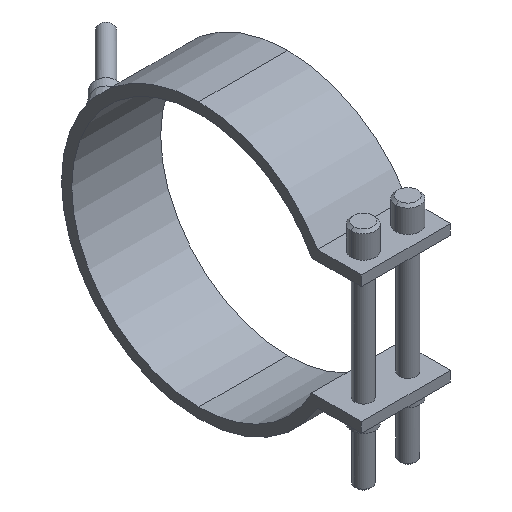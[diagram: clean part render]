
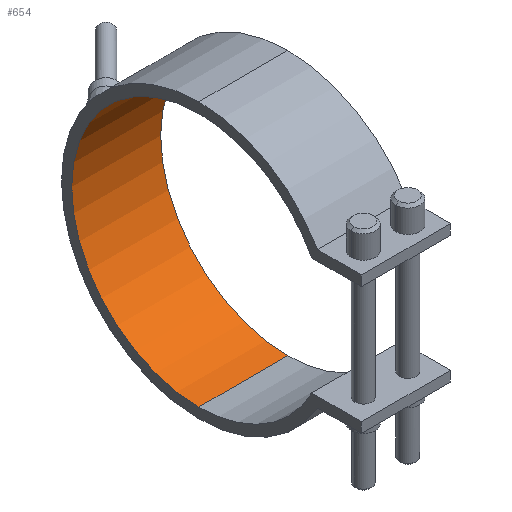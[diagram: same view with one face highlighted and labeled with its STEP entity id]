
A CAD part, isometric view. The second image highlights one B-rep face of the part: STEP entity #654.
In plain terms, the highlighted cylindrical face has radius 50 mm (diameter 100 mm), a partial arc.
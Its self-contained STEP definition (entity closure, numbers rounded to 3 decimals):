
#336=CARTESIAN_POINT('Vertex',(17.5,0.,50.)) ;
#341=CARTESIAN_POINT('Axis2P3D Location',(17.5,0.,0.)) ;
#345=CARTESIAN_POINT('Vertex',(17.5,0.,-50.)) ;
#452=CARTESIAN_POINT('Vertex',(-17.5,0.,-50.)) ;
#455=CARTESIAN_POINT('Axis2P3D Location',(-17.5,0.,0.)) ;
#459=CARTESIAN_POINT('Vertex',(-17.5,0.,50.)) ;
#626=CARTESIAN_POINT('Line Origine',(17.5,0.,50.)) ;
#638=CARTESIAN_POINT('Axis2P3D Location',(17.5,0.,0.)) ;
#643=CARTESIAN_POINT('Line Origine',(17.5,0.,-50.)) ;
#342=DIRECTION('Axis2P3D Direction',(1.,0.,0.)) ;
#456=DIRECTION('Axis2P3D Direction',(1.,0.,0.)) ;
#627=DIRECTION('Vector Direction',(1.,0.,0.)) ;
#639=DIRECTION('Axis2P3D Direction',(1.,0.,-0.)) ;
#640=DIRECTION('Axis2P3D XDirection',(0.,0.,-1.)) ;
#644=DIRECTION('Vector Direction',(1.,0.,0.)) ;
#343=AXIS2_PLACEMENT_3D('Circle Axis2P3D',#341,#342,$) ;
#457=AXIS2_PLACEMENT_3D('Circle Axis2P3D',#455,#456,$) ;
#641=AXIS2_PLACEMENT_3D('Cylinder Axis2P3D',#638,#639,#640) ;
#649=ORIENTED_EDGE('',*,*,#347,.T.) ;
#650=ORIENTED_EDGE('',*,*,#630,.T.) ;
#651=ORIENTED_EDGE('',*,*,#461,.F.) ;
#652=ORIENTED_EDGE('',*,*,#647,.T.) ;
#628=VECTOR('Line Direction',#627,1.) ;
#645=VECTOR('Line Direction',#644,1.) ;
#654=ADVANCED_FACE('29100035',(#653),#642,.F.) ;
#344=CIRCLE('generated circle',#343,50.) ;
#458=CIRCLE('generated circle',#457,50.) ;
#642=CYLINDRICAL_SURFACE('generated cylinder',#641,50.) ;
#347=EDGE_CURVE('',#346,#337,#344,.T.) ;
#461=EDGE_CURVE('',#453,#460,#458,.T.) ;
#630=EDGE_CURVE('',#337,#460,#629,.F.) ;
#647=EDGE_CURVE('',#453,#346,#646,.T.) ;
#648=EDGE_LOOP('',(#649,#650,#651,#652)) ;
#653=FACE_OUTER_BOUND('',#648,.T.) ;
#629=LINE('Line',#626,#628) ;
#646=LINE('Line',#643,#645) ;
#337=VERTEX_POINT('',#336) ;
#346=VERTEX_POINT('',#345) ;
#453=VERTEX_POINT('',#452) ;
#460=VERTEX_POINT('',#459) ;
